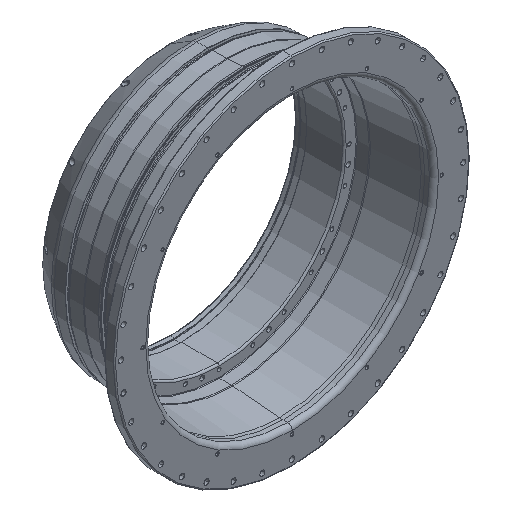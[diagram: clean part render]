
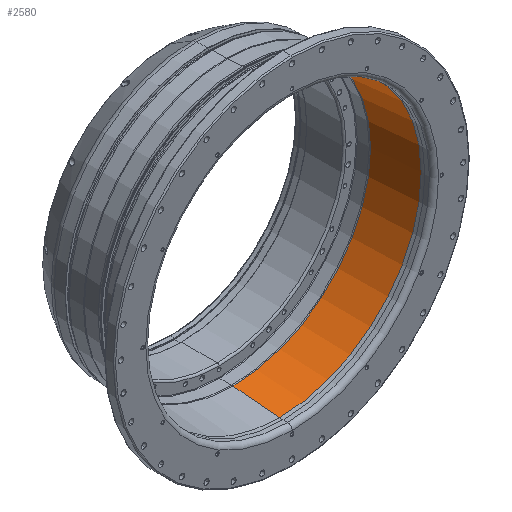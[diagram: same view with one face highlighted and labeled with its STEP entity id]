
A CAD part, isometric view. The second image highlights one B-rep face of the part: STEP entity #2580.
In plain terms, the highlighted conical face has half-angle 5 degrees and reference radius 241.095 mm.
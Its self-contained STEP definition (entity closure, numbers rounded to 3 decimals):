
#2473=CARTESIAN_POINT('Vertex',(0.,-525.631,248.234)) ;
#2476=CARTESIAN_POINT('Axis2P3D Location',(0.,-525.631,0.)) ;
#2480=CARTESIAN_POINT('Vertex',(0.,-525.631,-248.234)) ;
#2550=CARTESIAN_POINT('Axis2P3D Location',(0.,-444.038,0.)) ;
#2555=CARTESIAN_POINT('Line Origine',(0.,-484.835,244.664)) ;
#2559=CARTESIAN_POINT('Vertex',(0.,-444.038,241.095)) ;
#2562=CARTESIAN_POINT('Axis2P3D Location',(0.,-444.038,0.)) ;
#2566=CARTESIAN_POINT('Vertex',(0.,-444.038,-241.095)) ;
#2569=CARTESIAN_POINT('Line Origine',(0.,-484.835,-244.664)) ;
#2477=DIRECTION('Axis2P3D Direction',(0.,1.,0.)) ;
#2551=DIRECTION('Axis2P3D Direction',(-0.,-1.,-0.)) ;
#2552=DIRECTION('Axis2P3D XDirection',(0.,0.,1.)) ;
#2556=DIRECTION('Vector Direction',(0.,-0.996,0.087)) ;
#2563=DIRECTION('Axis2P3D Direction',(0.,-1.,-0.)) ;
#2570=DIRECTION('Vector Direction',(0.,-0.996,-0.087)) ;
#2478=AXIS2_PLACEMENT_3D('Circle Axis2P3D',#2476,#2477,$) ;
#2553=AXIS2_PLACEMENT_3D('Cone Axis2P3D',#2550,#2551,#2552) ;
#2564=AXIS2_PLACEMENT_3D('Circle Axis2P3D',#2562,#2563,$) ;
#2575=ORIENTED_EDGE('',*,*,#2482,.F.) ;
#2576=ORIENTED_EDGE('',*,*,#2561,.T.) ;
#2577=ORIENTED_EDGE('',*,*,#2568,.T.) ;
#2578=ORIENTED_EDGE('',*,*,#2573,.F.) ;
#2557=VECTOR('Line Direction',#2556,1.) ;
#2571=VECTOR('Line Direction',#2570,1.) ;
#2580=ADVANCED_FACE('Corps principal',(#2579),#2554,.F.) ;
#2479=CIRCLE('generated circle',#2478,248.234) ;
#2565=CIRCLE('generated circle',#2564,241.095) ;
#2554=CONICAL_SURFACE('Cone',#2553,241.095,0.087) ;
#2482=EDGE_CURVE('',#2474,#2481,#2479,.T.) ;
#2561=EDGE_CURVE('',#2474,#2560,#2558,.F.) ;
#2568=EDGE_CURVE('',#2560,#2567,#2565,.F.) ;
#2573=EDGE_CURVE('',#2481,#2567,#2572,.F.) ;
#2574=EDGE_LOOP('',(#2575,#2576,#2577,#2578)) ;
#2579=FACE_OUTER_BOUND('',#2574,.T.) ;
#2558=LINE('Line',#2555,#2557) ;
#2572=LINE('Line',#2569,#2571) ;
#2474=VERTEX_POINT('',#2473) ;
#2481=VERTEX_POINT('',#2480) ;
#2560=VERTEX_POINT('',#2559) ;
#2567=VERTEX_POINT('',#2566) ;
